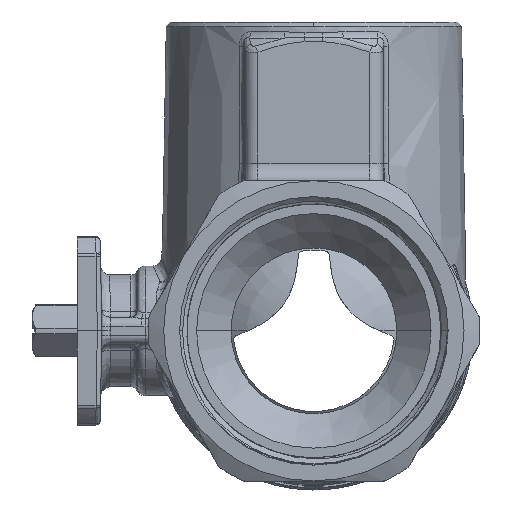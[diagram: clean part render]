
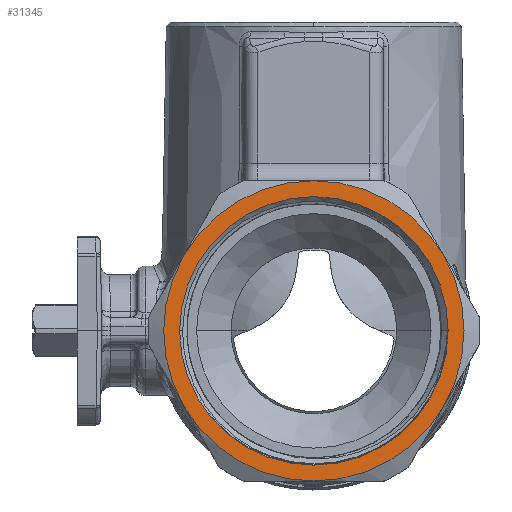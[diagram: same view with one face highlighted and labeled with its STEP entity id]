
A CAD part, left-side view. The second image highlights one B-rep face of the part: STEP entity #31345.
In plain terms, the highlighted planar face has unit normal (-1, 0, 0).
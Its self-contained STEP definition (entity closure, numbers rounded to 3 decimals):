
#239=CARTESIAN_POINT('',(-65.7,0.,
-33.5));
#1330=CARTESIAN_POINT('',(-65.7,0.,0.));
#1331=DIRECTION('',(-1.,0.,0.));
#1332=DIRECTION('',(0.,0.,-1.));
#1333=AXIS2_PLACEMENT_3D('',#1330,#1331,#1332);
#1343=CARTESIAN_POINT('',(-65.7,-29.012,
-16.75));
#1367=CARTESIAN_POINT('',(-65.7,0.,0.));
#1368=DIRECTION('',(-1.,0.,0.));
#1369=DIRECTION('',(0.,-0.866,-0.5));
#1370=AXIS2_PLACEMENT_3D('',#1367,#1368,#1369);
#1395=CARTESIAN_POINT('',(-65.7,-29.012,
16.75));
#1426=CARTESIAN_POINT('',(-65.7,0.,0.));
#1427=DIRECTION('',(1.,0.,0.));
#1428=DIRECTION('',(0.,0.,1.));
#1429=AXIS2_PLACEMENT_3D('',#1426,#1427,#1428);
#1439=CARTESIAN_POINT('',(-65.7,0.,
33.5));
#1532=CARTESIAN_POINT('',(-65.7,0.,0.));
#1533=DIRECTION('',(1.,0.,0.));
#1534=DIRECTION('',(0.,0.866,0.5));
#1535=AXIS2_PLACEMENT_3D('',#1532,#1533,#1534);
#1545=CARTESIAN_POINT('',(-65.7,29.012,16.75));
#1557=CARTESIAN_POINT('',(-65.7,0.,0.));
#1558=DIRECTION('',(-1.,0.,0.));
#1559=DIRECTION('',(0.,0.866,0.5));
#1560=AXIS2_PLACEMENT_3D('',#1557,#1558,#1559);
#1581=CARTESIAN_POINT('',(-65.7,0.,0.));
#1582=DIRECTION('',(1.,0.,0.));
#1583=DIRECTION('',(0.,1.,0.));
#1584=AXIS2_PLACEMENT_3D('',#1581,#1582,#1583);
#1586=CARTESIAN_POINT('',(-65.7,0.,0.));
#1587=DIRECTION('',(-1.,0.,0.));
#1588=DIRECTION('',(0.,1.,0.));
#1589=AXIS2_PLACEMENT_3D('',#1586,#1587,#1588);
#1610=CARTESIAN_POINT('',(-65.7,0.,0.));
#1611=DIRECTION('',(-1.,0.,0.));
#1612=DIRECTION('',(0.,0.866,-0.5));
#1613=AXIS2_PLACEMENT_3D('',#1610,#1611,#1612);
#17771=CARTESIAN_POINT('',(-65.7,29.012,
-16.75));
#27312=CARTESIAN_POINT('',(-65.7,29.95,0.));
#27313=CARTESIAN_POINT('',(-65.7,-29.95,0.));
#27314=VERTEX_POINT('',#27312);
#27315=VERTEX_POINT('',#27313);
#27317=VERTEX_POINT('',#1545);
#27324=VERTEX_POINT('',#1439);
#27331=VERTEX_POINT('',#1395);
#27334=VERTEX_POINT('',#1343);
#27341=VERTEX_POINT('',#239);
#27348=VERTEX_POINT('',#17771);
#31325=CARTESIAN_POINT('',(-65.7,0.,0.));
#31326=DIRECTION('',(1.,0.,0.));
#31327=DIRECTION('',(0.,-1.,0.));
#31328=AXIS2_PLACEMENT_3D('',#31325,#31326,#31327);
#31329=PLANE('',#31328);
#31330=ORIENTED_EDGE('',*,*,#31311,.F.);
#31331=ORIENTED_EDGE('',*,*,#31284,.T.);
#31332=ORIENTED_EDGE('',*,*,#31212,.T.);
#31333=ORIENTED_EDGE('',*,*,#31142,.F.);
#31334=ORIENTED_EDGE('',*,*,#31110,.F.);
#31336=ORIENTED_EDGE('',*,*,#31335,.F.);
#31337=EDGE_LOOP('',(#31330,#31331,#31332,#31333,#31334,#31336));
#31338=FACE_OUTER_BOUND('',#31337,.F.);
#31340=ORIENTED_EDGE('',*,*,#31339,.F.);
#31342=ORIENTED_EDGE('',*,*,#31341,.T.);
#31343=EDGE_LOOP('',(#31340,#31342));
#31344=FACE_BOUND('',#31343,.F.);
#1334=CIRCLE('',#1333,33.5);
#1371=CIRCLE('',#1370,33.5);
#1430=CIRCLE('',#1429,33.5);
#1536=CIRCLE('',#1535,33.5);
#1561=CIRCLE('',#1560,33.5);
#1585=CIRCLE('',#1584,29.95);
#1590=CIRCLE('',#1589,29.95);
#1614=CIRCLE('',#1613,33.5);
#31110=EDGE_CURVE('',#27341,#27334,#1334,.T.);
#31142=EDGE_CURVE('',#27334,#27331,#1371,.T.);
#31212=EDGE_CURVE('',#27324,#27331,#1430,.T.);
#31284=EDGE_CURVE('',#27317,#27324,#1536,.T.);
#31311=EDGE_CURVE('',#27317,#27348,#1561,.T.);
#31335=EDGE_CURVE('',#27348,#27341,#1614,.T.);
#31339=EDGE_CURVE('',#27314,#27315,#1585,.T.);
#31341=EDGE_CURVE('',#27314,#27315,#1590,.T.);
#31345=ADVANCED_FACE('',(#31338,#31344),#31329,.F.);
